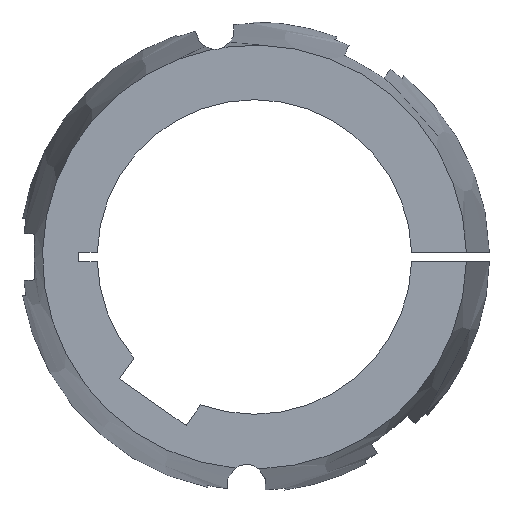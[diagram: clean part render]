
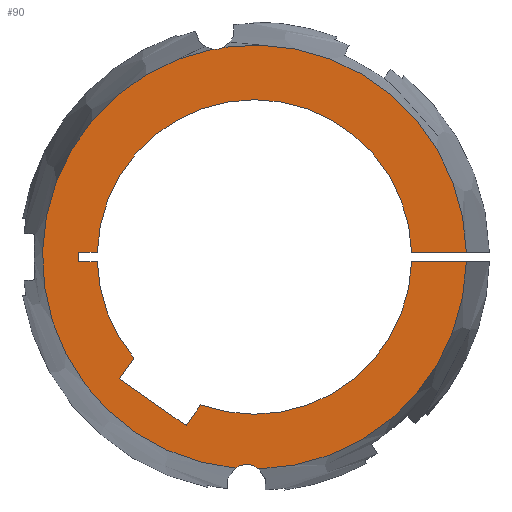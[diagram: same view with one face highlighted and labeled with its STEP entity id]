
A CAD part, left-side view. The second image highlights one B-rep face of the part: STEP entity #90.
In plain terms, the highlighted planar face has unit normal (-1, 0, 0).
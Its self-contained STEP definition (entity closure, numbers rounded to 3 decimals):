
#90 = ADVANCED_FACE( '', ( #140 ), #141, .F. );
#140 = FACE_OUTER_BOUND( '', #208, .T. );
#141 = PLANE( '', #209 );
#208 = EDGE_LOOP( '', ( #369, #370, #371, #372, #373, #374, #375, #376, #377, #378, #379, #380, #381, #382, #383, #384 ) );
#209 = AXIS2_PLACEMENT_3D( '', #385, #386, #387 );
#369 = ORIENTED_EDGE( '', *, *, #548, .F. );
#370 = ORIENTED_EDGE( '', *, *, #601, .F. );
#371 = ORIENTED_EDGE( '', *, *, #570, .T. );
#372 = ORIENTED_EDGE( '', *, *, #583, .T. );
#373 = ORIENTED_EDGE( '', *, *, #581, .T. );
#374 = ORIENTED_EDGE( '', *, *, #578, .T. );
#375 = ORIENTED_EDGE( '', *, *, #587, .T. );
#376 = ORIENTED_EDGE( '', *, *, #602, .T. );
#377 = ORIENTED_EDGE( '', *, *, #603, .T. );
#378 = ORIENTED_EDGE( '', *, *, #604, .T. );
#379 = ORIENTED_EDGE( '', *, *, #605, .T. );
#380 = ORIENTED_EDGE( '', *, *, #606, .T. );
#381 = ORIENTED_EDGE( '', *, *, #572, .T. );
#382 = ORIENTED_EDGE( '', *, *, #607, .F. );
#383 = ORIENTED_EDGE( '', *, *, #551, .F. );
#384 = ORIENTED_EDGE( '', *, *, #608, .F. );
#385 = CARTESIAN_POINT( '', ( -89., 0., 0. ) );
#386 = DIRECTION( '', ( 1., 0., 0. ) );
#387 = DIRECTION( '', ( 0., 1., 0. ) );
#548 = EDGE_CURVE( '', #649, #651, #652, .F. );
#551 = EDGE_CURVE( '', #655, #657, #658, .F. );
#570 = EDGE_CURVE( '', #693, #691, #694, .T. );
#572 = EDGE_CURVE( '', #696, #697, #698, .T. );
#578 = EDGE_CURVE( '', #709, #707, #710, .T. );
#581 = EDGE_CURVE( '', #714, #709, #715, .T. );
#583 = EDGE_CURVE( '', #691, #714, #717, .T. );
#587 = EDGE_CURVE( '', #707, #721, #723, .T. );
#601 = EDGE_CURVE( '', #693, #649, #745, .T. );
#602 = EDGE_CURVE( '', #721, #746, #747, .T. );
#603 = EDGE_CURVE( '', #746, #748, #749, .T. );
#604 = EDGE_CURVE( '', #748, #750, #751, .T. );
#605 = EDGE_CURVE( '', #750, #752, #753, .T. );
#606 = EDGE_CURVE( '', #752, #696, #754, .T. );
#607 = EDGE_CURVE( '', #657, #697, #755, .T. );
#608 = EDGE_CURVE( '', #651, #655, #756, .T. );
#649 = VERTEX_POINT( '', #815 );
#651 = VERTEX_POINT( '', #828 );
#652 = CIRCLE( '', #829, 5.25 );
#655 = VERTEX_POINT( '', #843 );
#657 = VERTEX_POINT( '', #861 );
#658 = CIRCLE( '', #862, 5.25 );
#691 = VERTEX_POINT( '', #935 );
#693 = VERTEX_POINT( '', #938 );
#694 = LINE( '', #939, #940 );
#696 = VERTEX_POINT( '', #948 );
#697 = VERTEX_POINT( '', #949 );
#698 = LINE( '', #950, #951 );
#707 = VERTEX_POINT( '', #969 );
#709 = VERTEX_POINT( '', #972 );
#710 = LINE( '', #973, #974 );
#714 = VERTEX_POINT( '', #980 );
#715 = LINE( '', #981, #982 );
#717 = CIRCLE( '', #985, 42.5 );
#721 = VERTEX_POINT( '', #990 );
#723 = LINE( '', #993, #994 );
#745 = CIRCLE( '', #1019, 57.277 );
#746 = VERTEX_POINT( '', #1020 );
#747 = CIRCLE( '', #1021, 42.5 );
#748 = VERTEX_POINT( '', #1022 );
#749 = LINE( '', #1023, #1024 );
#750 = VERTEX_POINT( '', #1025 );
#751 = LINE( '', #1026, #1027 );
#752 = VERTEX_POINT( '', #1028 );
#753 = LINE( '', #1029, #1030 );
#754 = CIRCLE( '', #1031, 42.5 );
#755 = CIRCLE( '', #1032, 57.277 );
#756 = CIRCLE( '', #1033, 57.277 );
#815 = CARTESIAN_POINT( '', ( -89., -1.169, -57.265 ) );
#828 = CARTESIAN_POINT( '', ( -89., 5.158, -57.044 ) );
#829 = AXIS2_PLACEMENT_3D( '', #1193, #1194, #1195 );
#843 = CARTESIAN_POINT( '', ( -89., 11.362, 56.138 ) );
#861 = CARTESIAN_POINT( '', ( -89., 8.229, 56.682 ) );
#862 = AXIS2_PLACEMENT_3D( '', #1196, #1197, #1198 );
#935 = CARTESIAN_POINT( '', ( -89., -42.482, -1.25 ) );
#938 = CARTESIAN_POINT( '', ( -89., -57.263, -1.25 ) );
#939 = CARTESIAN_POINT( '', ( -89., -63.5, -1.25 ) );
#940 = VECTOR( '', #1228, 1000. );
#948 = CARTESIAN_POINT( '', ( -89., -42.482, 1.25 ) );
#949 = CARTESIAN_POINT( '', ( -89., -57.263, 1.25 ) );
#950 = CARTESIAN_POINT( '', ( -89., 0., 1.25 ) );
#951 = VECTOR( '', #1229, 1000. );
#969 = CARTESIAN_POINT( '', ( -89., 36.485, -32.928 ) );
#972 = CARTESIAN_POINT( '', ( -89., 18.464, -45.547 ) );
#973 = CARTESIAN_POINT( '', ( -89., 18.464, -45.547 ) );
#974 = VECTOR( '', #1234, 1000. );
#980 = CARTESIAN_POINT( '', ( -89., 14.536, -39.937 ) );
#981 = CARTESIAN_POINT( '', ( -89., 14.536, -39.937 ) );
#982 = VECTOR( '', #1237, 1000. );
#985 = AXIS2_PLACEMENT_3D( '', #1239, #1240, #1241 );
#990 = CARTESIAN_POINT( '', ( -89., 32.557, -27.318 ) );
#993 = CARTESIAN_POINT( '', ( -89., 36.485, -32.928 ) );
#994 = VECTOR( '', #1247, 1000. );
#1019 = AXIS2_PLACEMENT_3D( '', #1281, #1282, #1283 );
#1020 = CARTESIAN_POINT( '', ( -89., 42.482, -1.25 ) );
#1021 = AXIS2_PLACEMENT_3D( '', #1284, #1285, #1286 );
#1022 = CARTESIAN_POINT( '', ( -89., 47.5, -1.25 ) );
#1023 = CARTESIAN_POINT( '', ( -89., 0., -1.25 ) );
#1024 = VECTOR( '', #1287, 1000. );
#1025 = CARTESIAN_POINT( '', ( -89., 47.5, 1.25 ) );
#1026 = CARTESIAN_POINT( '', ( -89., 47.5, -1.25 ) );
#1027 = VECTOR( '', #1288, 1000. );
#1028 = CARTESIAN_POINT( '', ( -89., 42.482, 1.25 ) );
#1029 = CARTESIAN_POINT( '', ( -89., 47.5, 1.25 ) );
#1030 = VECTOR( '', #1289, 1000. );
#1031 = AXIS2_PLACEMENT_3D( '', #1290, #1291, #1292 );
#1032 = AXIS2_PLACEMENT_3D( '', #1293, #1294, #1295 );
#1033 = AXIS2_PLACEMENT_3D( '', #1296, #1297, #1298 );
#1193 = CARTESIAN_POINT( '', ( -89., 2.141, -61.34 ) );
#1194 = DIRECTION( '', ( 1., 0., 0. ) );
#1195 = DIRECTION( '', ( 0., 1., 0. ) );
#1196 = CARTESIAN_POINT( '', ( -89., 10.652, 61.34 ) );
#1197 = DIRECTION( '', ( 1., 0., 0. ) );
#1198 = DIRECTION( '', ( 0., 1., 0. ) );
#1228 = DIRECTION( '', ( 0., 1., 0. ) );
#1229 = DIRECTION( '', ( 0., -1., 0. ) );
#1234 = DIRECTION( '', ( 0., 0.819, 0.574 ) );
#1237 = DIRECTION( '', ( 0., 0.574, -0.819 ) );
#1239 = CARTESIAN_POINT( '', ( -89., 0., 0. ) );
#1240 = DIRECTION( '', ( 1., 0., 0. ) );
#1241 = DIRECTION( '', ( 0., 0., -1. ) );
#1247 = DIRECTION( '', ( 0., -0.574, 0.819 ) );
#1281 = CARTESIAN_POINT( '', ( -89., 0., 0. ) );
#1282 = DIRECTION( '', ( 1., 0., 0. ) );
#1283 = DIRECTION( '', ( 0., 1., 0. ) );
#1284 = CARTESIAN_POINT( '', ( -89., 0., 0. ) );
#1285 = DIRECTION( '', ( 1., 0., 0. ) );
#1286 = DIRECTION( '', ( 0., 0., -1. ) );
#1287 = DIRECTION( '', ( 0., 1., 0. ) );
#1288 = DIRECTION( '', ( 0., 0., 1. ) );
#1289 = DIRECTION( '', ( 0., -1., 0. ) );
#1290 = CARTESIAN_POINT( '', ( -89., 0., 0. ) );
#1291 = DIRECTION( '', ( 1., 0., 0. ) );
#1292 = DIRECTION( '', ( 0., 0., -1. ) );
#1293 = CARTESIAN_POINT( '', ( -89., 0., 0. ) );
#1294 = DIRECTION( '', ( 1., 0., 0. ) );
#1295 = DIRECTION( '', ( 0., 1., 0. ) );
#1296 = CARTESIAN_POINT( '', ( -89., 0., 0. ) );
#1297 = DIRECTION( '', ( 1., 0., 0. ) );
#1298 = DIRECTION( '', ( 0., 1., 0. ) );
